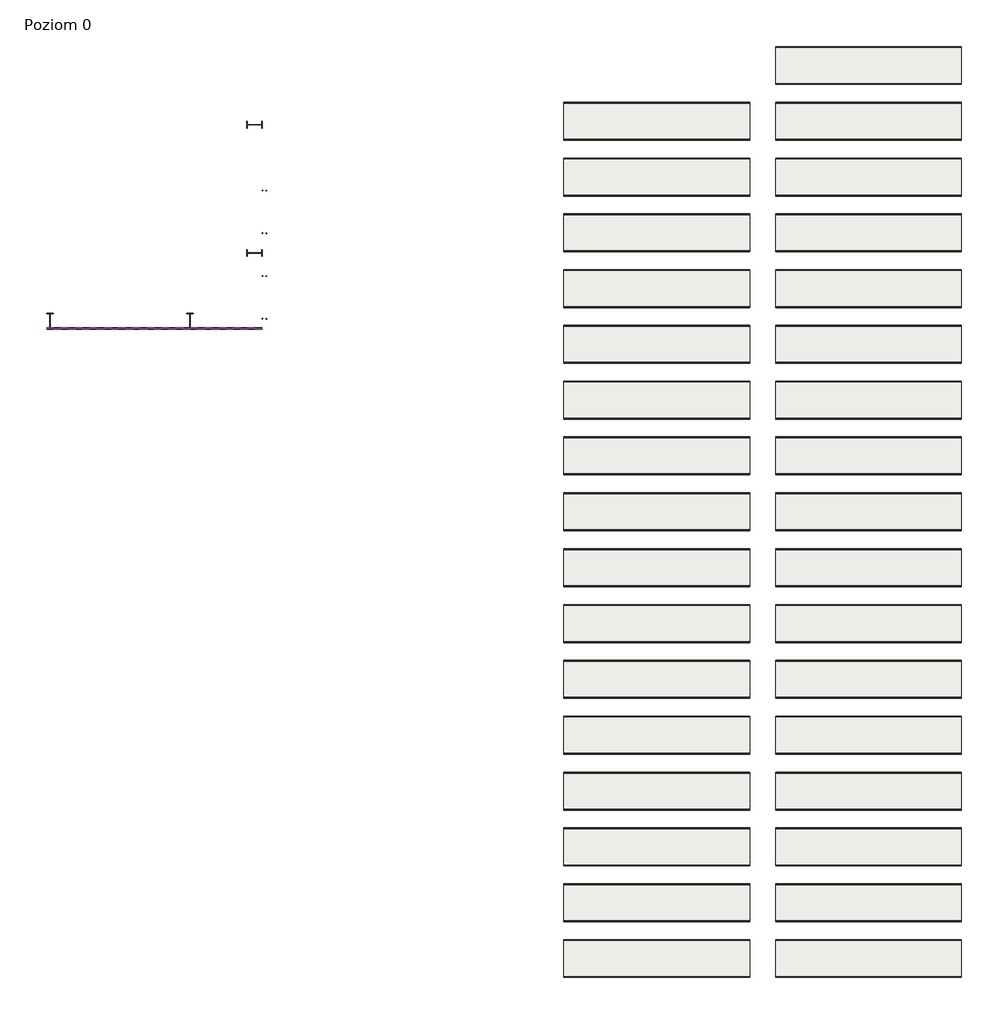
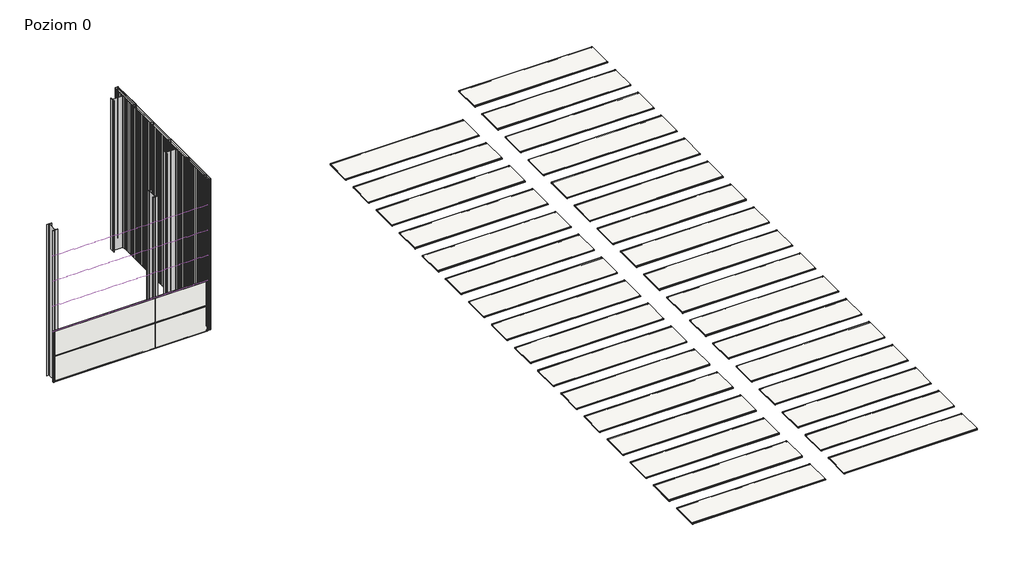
# One storey: 45 coverings, 4 columns.
"""IFC4 building model written with IfcOpenShell, lengths in millimetres."""

from ifc_helpers import new_model, si_unit, origin, place, context, project, spatial, transform, mapped, element, save
from components import standard1_standard_8d04f7a0, covering_261e3902, covering_53a61d3a, covering_9212b8ed, covering_3d8cfdf2

model = new_model("IFC4")

# Units and contexts
model_context = context("Model", 3, world=origin())
ifc_project = project(units=[si_unit("LENGTHUNIT", "METRE", prefix="MILLI")], contexts=[model_context])

# Site, building, storey
site = spatial("IfcSite", under=ifc_project)
building = spatial("IfcBuilding", under=site)
storey = spatial("IfcBuildingStorey", under=building, Name="Poziom 0", Elevation=0.0)

# Columns
placement = place(None, origin())
standard1_standard_shape = standard1_standard_8d04f7a0(model_context)
element("IfcColumn", 1, ObjectType="Standard1 : Standard", at=placement, inside=storey, context=model_context, shape_type="MappedRepresentation", body=[
    mapped(standard1_standard_shape, transform((-652.7962443, -4043.6992704, 0.0), x_axis=(0.0, 1.0, 0.0), y_axis=(-1.0, 0.0, 0.0), z_axis=(0.0, 0.0, 1.0))),
])
element("IfcColumn", 2, ObjectType="Standard1 : Standard", at=placement, inside=storey, context=model_context, shape_type="MappedRepresentation", body=[
    mapped(standard1_standard_shape, transform((-652.7962443, -7493.6992704, 0.0), x_axis=(0.0, 1.0, 0.0), y_axis=(-1.0, 0.0, 0.0), z_axis=(0.0, 0.0, 1.0))),
])
element("IfcColumn", 3, ObjectType="Standard1 : Standard", at=placement, inside=storey, context=model_context, shape_type="MappedRepresentation", body=[
    mapped(standard1_standard_shape, transform((-6157.3962443, -9313.0059697, 0.0), x_axis=(1.0, 0.0, 0.0), y_axis=(0.0, 1.0, 0.0), z_axis=(0.0, 0.0, 1.0))),
])
element("IfcColumn", 4, ObjectType="Standard1 : Standard", at=placement, inside=storey, context=model_context, shape_type="MappedRepresentation", body=[
    mapped(standard1_standard_shape, transform((-2391.8962443, -9313.0059697, 0.0), x_axis=(1.0, 0.0, 0.0), y_axis=(0.0, 1.0, 0.0), z_axis=(0.0, 0.0, 1.0))),
])

# Coverings
covering_shape = covering_261e3902(model_context)
element("IfcCovering", 5, ObjectType="Płyta warstwowa ścienna SPW-S CORE PIR (pojedynczy arkusz) : -", at=placement, inside=storey, context=model_context, shape_type="MappedRepresentation", body=[
    mapped(covering_shape, transform((-6246.8962443, -9538.9059697, 1035.0), x_axis=(0.0, 0.0, 1.0), y_axis=(-1.0, 0.0, 0.0), z_axis=(0.0, -1.0, 0.0))),
])
element("IfcCovering", 6, ObjectType="Płyta warstwowa ścienna SPW-S CORE PIR (pojedynczy arkusz) : -", at=placement, inside=storey, context=model_context, shape_type="MappedRepresentation", body=[
    mapped(covering_shape, transform((-6246.8962443, -9538.9059697, 2035.0), x_axis=(0.0, 0.0, 1.0), y_axis=(-1.0, 0.0, 0.0), z_axis=(0.0, -1.0, 0.0))),
])
element("IfcCovering", 7, ObjectType="Płyta warstwowa ścienna SPW-S CORE PIR (pojedynczy arkusz) : -", at=placement, inside=storey, context=model_context, shape_type="MappedRepresentation", body=[
    mapped(covering_shape, transform((-6246.8962443, -9538.9059697, 3035.0), x_axis=(0.0, 0.0, 1.0), y_axis=(-1.0, 0.0, 0.0), z_axis=(0.0, -1.0, 0.0))),
])
element("IfcCovering", 8, ObjectType="Płyta warstwowa ścienna SPW-S CORE PIR (pojedynczy arkusz) : -", at=placement, inside=storey, context=model_context, shape_type="MappedRepresentation", body=[
    mapped(covering_shape, transform((-6246.8962443, -9538.9059697, 4035.0), x_axis=(0.0, 0.0, 1.0), y_axis=(-1.0, 0.0, 0.0), z_axis=(0.0, -1.0, 0.0))),
])
element("IfcCovering", 9, ObjectType="Płyta warstwowa ścienna SPW-S CORE PIR (pojedynczy arkusz) : -", at=placement, inside=storey, context=model_context, shape_type="MappedRepresentation", body=[
    mapped(covering_shape, transform((-6246.8962443, -9538.9059697, 5035.0), x_axis=(0.0, 0.0, 1.0), y_axis=(-1.0, 0.0, 0.0), z_axis=(0.0, -1.0, 0.0))),
])
element("IfcCovering", 10, ObjectType="Płyta warstwowa ścienna SPW-S CORE PIR (pojedynczy arkusz) : -", at=placement, inside=storey, context=model_context, shape_type="MappedRepresentation", body=[
    mapped(covering_shape, transform((-6246.8962443, -9538.9059697, 6035.0), x_axis=(0.0, 0.0, 1.0), y_axis=(-1.0, 0.0, 0.0), z_axis=(0.0, -1.0, 0.0))),
])
covering_2_shape = covering_53a61d3a(model_context)
element("IfcCovering", 11, ObjectType="Płyta warstwowa ścienna SPW-S CORE PIR (pojedynczy arkusz) : -", at=placement, inside=storey, context=model_context, shape_type="MappedRepresentation", body=[
    mapped(covering_2_shape, transform((12661.4641213, -4480.5974484, 100.0), x_axis=(0.0, -1.0, 0.0), y_axis=(1.0, 0.0, 0.0), z_axis=(0.0, 0.0, 1.0))),
])
element("IfcCovering", 12, ObjectType="Płyta warstwowa ścienna SPW-S CORE PIR (pojedynczy arkusz) : -", at=placement, inside=storey, context=model_context, shape_type="MappedRepresentation", body=[
    mapped(covering_2_shape, transform((12661.4641213, -5980.5974484, 100.0), x_axis=(0.0, -1.0, 0.0), y_axis=(1.0, 0.0, 0.0), z_axis=(0.0, 0.0, 1.0))),
])
element("IfcCovering", 13, ObjectType="Płyta warstwowa ścienna SPW-S CORE PIR (pojedynczy arkusz) : -", at=placement, inside=storey, context=model_context, shape_type="MappedRepresentation", body=[
    mapped(covering_2_shape, transform((12661.4641213, -7480.5974484, 100.0), x_axis=(0.0, -1.0, 0.0), y_axis=(1.0, 0.0, 0.0), z_axis=(0.0, 0.0, 1.0))),
])
element("IfcCovering", 14, ObjectType="Płyta warstwowa ścienna SPW-S CORE PIR (pojedynczy arkusz) : -", at=placement, inside=storey, context=model_context, shape_type="MappedRepresentation", body=[
    mapped(covering_2_shape, transform((12661.4641213, -8980.5974484, 100.0), x_axis=(0.0, -1.0, 0.0), y_axis=(1.0, 0.0, 0.0), z_axis=(0.0, 0.0, 1.0))),
])
element("IfcCovering", 15, ObjectType="Płyta warstwowa ścienna SPW-S CORE PIR (pojedynczy arkusz) : -", at=placement, inside=storey, context=model_context, shape_type="MappedRepresentation", body=[
    mapped(covering_2_shape, transform((12661.4641213, -10480.5974484, 100.0), x_axis=(0.0, -1.0, 0.0), y_axis=(1.0, 0.0, 0.0), z_axis=(0.0, 0.0, 1.0))),
])
element("IfcCovering", 16, ObjectType="Płyta warstwowa ścienna SPW-S CORE PIR (pojedynczy arkusz) : -", at=placement, inside=storey, context=model_context, shape_type="MappedRepresentation", body=[
    mapped(covering_2_shape, transform((12661.4641213, -11980.5974484, 100.0), x_axis=(0.0, -1.0, 0.0), y_axis=(1.0, 0.0, 0.0), z_axis=(0.0, 0.0, 1.0))),
])
element("IfcCovering", 17, ObjectType="Płyta warstwowa ścienna SPW-S CORE PIR (pojedynczy arkusz) : -", at=placement, inside=storey, context=model_context, shape_type="MappedRepresentation", body=[
    mapped(covering_2_shape, transform((12661.4641213, -13480.5974484, 100.0), x_axis=(0.0, -1.0, 0.0), y_axis=(1.0, 0.0, 0.0), z_axis=(0.0, 0.0, 1.0))),
])
element("IfcCovering", 18, ObjectType="Płyta warstwowa ścienna SPW-S CORE PIR (pojedynczy arkusz) : -", at=placement, inside=storey, context=model_context, shape_type="MappedRepresentation", body=[
    mapped(covering_2_shape, transform((12661.4641213, -14980.5974484, 100.0), x_axis=(0.0, -1.0, 0.0), y_axis=(1.0, 0.0, 0.0), z_axis=(0.0, 0.0, 1.0))),
])
element("IfcCovering", 19, ObjectType="Płyta warstwowa ścienna SPW-S CORE PIR (pojedynczy arkusz) : -", at=placement, inside=storey, context=model_context, shape_type="MappedRepresentation", body=[
    mapped(covering_2_shape, transform((12661.4641213, -16490.082932, 100.0), x_axis=(0.0, -1.0, 0.0), y_axis=(1.0, 0.0, 0.0), z_axis=(0.0, 0.0, 1.0))),
])
element("IfcCovering", 20, ObjectType="Płyta warstwowa ścienna SPW-S CORE PIR (pojedynczy arkusz) : -", at=placement, inside=storey, context=model_context, shape_type="MappedRepresentation", body=[
    mapped(covering_2_shape, transform((12661.4641213, -17990.082932, 100.0), x_axis=(0.0, -1.0, 0.0), y_axis=(1.0, 0.0, 0.0), z_axis=(0.0, 0.0, 1.0))),
])
element("IfcCovering", 21, ObjectType="Płyta warstwowa ścienna SPW-S CORE PIR (pojedynczy arkusz) : -", at=placement, inside=storey, context=model_context, shape_type="MappedRepresentation", body=[
    mapped(covering_2_shape, transform((12661.4641213, -19490.082932, 100.0), x_axis=(0.0, -1.0, 0.0), y_axis=(1.0, 0.0, 0.0), z_axis=(0.0, 0.0, 1.0))),
])
element("IfcCovering", 22, ObjectType="Płyta warstwowa ścienna SPW-S CORE PIR (pojedynczy arkusz) : -", at=placement, inside=storey, context=model_context, shape_type="MappedRepresentation", body=[
    mapped(covering_2_shape, transform((12661.4641213, -20990.082932, 100.0), x_axis=(0.0, -1.0, 0.0), y_axis=(1.0, 0.0, 0.0), z_axis=(0.0, 0.0, 1.0))),
])
element("IfcCovering", 23, ObjectType="Płyta warstwowa ścienna SPW-S CORE PIR (pojedynczy arkusz) : -", at=placement, inside=storey, context=model_context, shape_type="MappedRepresentation", body=[
    mapped(covering_2_shape, transform((12661.4641213, -22499.5684156, 100.0), x_axis=(0.0, -1.0, 0.0), y_axis=(1.0, 0.0, 0.0), z_axis=(0.0, 0.0, 1.0))),
])
element("IfcCovering", 24, ObjectType="Płyta warstwowa ścienna SPW-S CORE PIR (pojedynczy arkusz) : -", at=placement, inside=storey, context=model_context, shape_type="MappedRepresentation", body=[
    mapped(covering_2_shape, transform((12661.4641213, -23999.5684156, 100.0), x_axis=(0.0, -1.0, 0.0), y_axis=(1.0, 0.0, 0.0), z_axis=(0.0, 0.0, 1.0))),
])
element("IfcCovering", 25, ObjectType="Płyta warstwowa ścienna SPW-S CORE PIR (pojedynczy arkusz) : -", at=placement, inside=storey, context=model_context, shape_type="MappedRepresentation", body=[
    mapped(covering_2_shape, transform((12661.4641213, -25499.5684156, 100.0), x_axis=(0.0, -1.0, 0.0), y_axis=(1.0, 0.0, 0.0), z_axis=(0.0, 0.0, 1.0))),
])
element("IfcCovering", 26, ObjectType="Płyta warstwowa ścienna SPW-S CORE PIR (pojedynczy arkusz) : -", at=placement, inside=storey, context=model_context, shape_type="MappedRepresentation", body=[
    mapped(covering_2_shape, transform((12661.4641213, -26999.5684156, 100.0), x_axis=(0.0, -1.0, 0.0), y_axis=(1.0, 0.0, 0.0), z_axis=(0.0, 0.0, 1.0))),
])
element("IfcCovering", 27, ObjectType="Płyta warstwowa ścienna SPW-S CORE PIR (pojedynczy arkusz) : -", at=placement, inside=storey, context=model_context, shape_type="MappedRepresentation", body=[
    mapped(covering_2_shape, transform((18361.4641213, -4480.5974484, 100.0), x_axis=(0.0, -1.0, 0.0), y_axis=(1.0, 0.0, 0.0), z_axis=(0.0, 0.0, 1.0))),
])
element("IfcCovering", 28, ObjectType="Płyta warstwowa ścienna SPW-S CORE PIR (pojedynczy arkusz) : -", at=placement, inside=storey, context=model_context, shape_type="MappedRepresentation", body=[
    mapped(covering_2_shape, transform((18361.4641213, -5980.5974484, 100.0), x_axis=(0.0, -1.0, 0.0), y_axis=(1.0, 0.0, 0.0), z_axis=(0.0, 0.0, 1.0))),
])
element("IfcCovering", 29, ObjectType="Płyta warstwowa ścienna SPW-S CORE PIR (pojedynczy arkusz) : -", at=placement, inside=storey, context=model_context, shape_type="MappedRepresentation", body=[
    mapped(covering_2_shape, transform((18361.4641213, -7480.5974484, 100.0), x_axis=(0.0, -1.0, 0.0), y_axis=(1.0, 0.0, 0.0), z_axis=(0.0, 0.0, 1.0))),
])
element("IfcCovering", 30, ObjectType="Płyta warstwowa ścienna SPW-S CORE PIR (pojedynczy arkusz) : -", at=placement, inside=storey, context=model_context, shape_type="MappedRepresentation", body=[
    mapped(covering_2_shape, transform((18361.4641213, -8980.5974484, 100.0), x_axis=(0.0, -1.0, 0.0), y_axis=(1.0, 0.0, 0.0), z_axis=(0.0, 0.0, 1.0))),
])
element("IfcCovering", 31, ObjectType="Płyta warstwowa ścienna SPW-S CORE PIR (pojedynczy arkusz) : -", at=placement, inside=storey, context=model_context, shape_type="MappedRepresentation", body=[
    mapped(covering_2_shape, transform((18361.4641213, -10480.5974484, 100.0), x_axis=(0.0, -1.0, 0.0), y_axis=(1.0, 0.0, 0.0), z_axis=(0.0, 0.0, 1.0))),
])
element("IfcCovering", 32, ObjectType="Płyta warstwowa ścienna SPW-S CORE PIR (pojedynczy arkusz) : -", at=placement, inside=storey, context=model_context, shape_type="MappedRepresentation", body=[
    mapped(covering_2_shape, transform((18361.4641213, -11980.5974484, 100.0), x_axis=(0.0, -1.0, 0.0), y_axis=(1.0, 0.0, 0.0), z_axis=(0.0, 0.0, 1.0))),
])
element("IfcCovering", 33, ObjectType="Płyta warstwowa ścienna SPW-S CORE PIR (pojedynczy arkusz) : -", at=placement, inside=storey, context=model_context, shape_type="MappedRepresentation", body=[
    mapped(covering_2_shape, transform((18361.4641213, -13480.5974484, 100.0), x_axis=(0.0, -1.0, 0.0), y_axis=(1.0, 0.0, 0.0), z_axis=(0.0, 0.0, 1.0))),
])
element("IfcCovering", 34, ObjectType="Płyta warstwowa ścienna SPW-S CORE PIR (pojedynczy arkusz) : -", at=placement, inside=storey, context=model_context, shape_type="MappedRepresentation", body=[
    mapped(covering_2_shape, transform((18361.4641213, -14980.5974484, 100.0), x_axis=(0.0, -1.0, 0.0), y_axis=(1.0, 0.0, 0.0), z_axis=(0.0, 0.0, 1.0))),
])
element("IfcCovering", 35, ObjectType="Płyta warstwowa ścienna SPW-S CORE PIR (pojedynczy arkusz) : -", at=placement, inside=storey, context=model_context, shape_type="MappedRepresentation", body=[
    mapped(covering_2_shape, transform((18361.4641213, -16490.082932, 100.0), x_axis=(0.0, -1.0, 0.0), y_axis=(1.0, 0.0, 0.0), z_axis=(0.0, 0.0, 1.0))),
])
element("IfcCovering", 36, ObjectType="Płyta warstwowa ścienna SPW-S CORE PIR (pojedynczy arkusz) : -", at=placement, inside=storey, context=model_context, shape_type="MappedRepresentation", body=[
    mapped(covering_2_shape, transform((18361.4641213, -17990.082932, 100.0), x_axis=(0.0, -1.0, 0.0), y_axis=(1.0, 0.0, 0.0), z_axis=(0.0, 0.0, 1.0))),
])
element("IfcCovering", 37, ObjectType="Płyta warstwowa ścienna SPW-S CORE PIR (pojedynczy arkusz) : -", at=placement, inside=storey, context=model_context, shape_type="MappedRepresentation", body=[
    mapped(covering_2_shape, transform((18361.4641213, -19490.082932, 100.0), x_axis=(0.0, -1.0, 0.0), y_axis=(1.0, 0.0, 0.0), z_axis=(0.0, 0.0, 1.0))),
])
element("IfcCovering", 38, ObjectType="Płyta warstwowa ścienna SPW-S CORE PIR (pojedynczy arkusz) : -", at=placement, inside=storey, context=model_context, shape_type="MappedRepresentation", body=[
    mapped(covering_2_shape, transform((18361.4641213, -20990.082932, 100.0), x_axis=(0.0, -1.0, 0.0), y_axis=(1.0, 0.0, 0.0), z_axis=(0.0, 0.0, 1.0))),
])
element("IfcCovering", 39, ObjectType="Płyta warstwowa ścienna SPW-S CORE PIR (pojedynczy arkusz) : -", at=placement, inside=storey, context=model_context, shape_type="MappedRepresentation", body=[
    mapped(covering_2_shape, transform((18361.4641213, -22499.5684156, 100.0), x_axis=(0.0, -1.0, 0.0), y_axis=(1.0, 0.0, 0.0), z_axis=(0.0, 0.0, 1.0))),
])
element("IfcCovering", 40, ObjectType="Płyta warstwowa ścienna SPW-S CORE PIR (pojedynczy arkusz) : -", at=placement, inside=storey, context=model_context, shape_type="MappedRepresentation", body=[
    mapped(covering_2_shape, transform((18361.4641213, -23999.5684156, 100.0), x_axis=(0.0, -1.0, 0.0), y_axis=(1.0, 0.0, 0.0), z_axis=(0.0, 0.0, 1.0))),
])
element("IfcCovering", 41, ObjectType="Płyta warstwowa ścienna SPW-S CORE PIR (pojedynczy arkusz) : -", at=placement, inside=storey, context=model_context, shape_type="MappedRepresentation", body=[
    mapped(covering_2_shape, transform((18361.4641213, -25499.5684156, 100.0), x_axis=(0.0, -1.0, 0.0), y_axis=(1.0, 0.0, 0.0), z_axis=(0.0, 0.0, 1.0))),
])
element("IfcCovering", 42, ObjectType="Płyta warstwowa ścienna SPW-S CORE PIR (pojedynczy arkusz) : -", at=placement, inside=storey, context=model_context, shape_type="MappedRepresentation", body=[
    mapped(covering_2_shape, transform((18361.4641213, -26999.5684156, 100.0), x_axis=(0.0, -1.0, 0.0), y_axis=(1.0, 0.0, 0.0), z_axis=(0.0, 0.0, 1.0))),
])
element("IfcCovering", 43, ObjectType="Płyta warstwowa ścienna SPW-S CORE PIR (pojedynczy arkusz) : -", at=placement, inside=storey, context=model_context, shape_type="MappedRepresentation", body=[
    mapped(covering_2_shape, transform((18361.4641213, -2980.5974484, 100.0), x_axis=(0.0, -1.0, 0.0), y_axis=(1.0, 0.0, 0.0), z_axis=(0.0, 0.0, 1.0))),
])
covering_3_shape = covering_9212b8ed(model_context)
element("IfcCovering", 44, ObjectType="Płyta warstwowa ścienna SPW-S CORE PIR (pojedynczy arkusz) : -", at=placement, inside=storey, context=model_context, shape_type="MappedRepresentation", body=[
    mapped(covering_3_shape, transform((-326.8962443, -3483.9059697, 6000.0), x_axis=(0.0, 1.0, 0.0), y_axis=(0.0, 0.0, 1.0), z_axis=(1.0, 0.0, 0.0))),
])
element("IfcCovering", 45, ObjectType="Płyta warstwowa ścienna SPW-S CORE PIR (pojedynczy arkusz) : -", at=placement, inside=storey, context=model_context, shape_type="MappedRepresentation", body=[
    mapped(covering_3_shape, transform((-326.8962443, -4633.9059698, 6000.0), x_axis=(0.0, 1.0, 0.0), y_axis=(0.0, 0.0, 1.0), z_axis=(1.0, 0.0, 0.0))),
])
element("IfcCovering", 46, ObjectType="Płyta warstwowa ścienna SPW-S CORE PIR (pojedynczy arkusz) : -", at=placement, inside=storey, context=model_context, shape_type="MappedRepresentation", body=[
    mapped(covering_3_shape, transform((-326.8962443, -5783.9059698, 6000.0), x_axis=(0.0, 1.0, 0.0), y_axis=(0.0, 0.0, 1.0), z_axis=(1.0, 0.0, 0.0))),
])
element("IfcCovering", 47, ObjectType="Płyta warstwowa ścienna SPW-S CORE PIR (pojedynczy arkusz) : -", at=placement, inside=storey, context=model_context, shape_type="MappedRepresentation", body=[
    mapped(covering_3_shape, transform((-326.8962443, -6933.9059698, 6000.0), x_axis=(0.0, 1.0, 0.0), y_axis=(0.0, 0.0, 1.0), z_axis=(1.0, 0.0, 0.0))),
])
element("IfcCovering", 48, ObjectType="Płyta warstwowa ścienna SPW-S CORE PIR (pojedynczy arkusz) : -", at=placement, inside=storey, context=model_context, shape_type="MappedRepresentation", body=[
    mapped(covering_3_shape, transform((-326.8962443, -8083.9059698, 6000.0), x_axis=(0.0, 1.0, 0.0), y_axis=(0.0, 0.0, 1.0), z_axis=(1.0, 0.0, 0.0))),
])
covering_4_shape = covering_3d8cfdf2(model_context)
element("IfcCovering", 49, ObjectType="Płyta warstwowa ścienna SPW-S CORE PIR (pojedynczy arkusz) : -", at=placement, inside=storey, context=model_context, shape_type="MappedRepresentation", body=[
    mapped(covering_4_shape, transform((-326.8962443, -9233.90597, 6000.0), x_axis=(0.0, 1.0, 0.0), y_axis=(0.0, 0.0, 1.0), z_axis=(1.0, 0.0, 0.0))),
])

save(model, "model.ifc")
